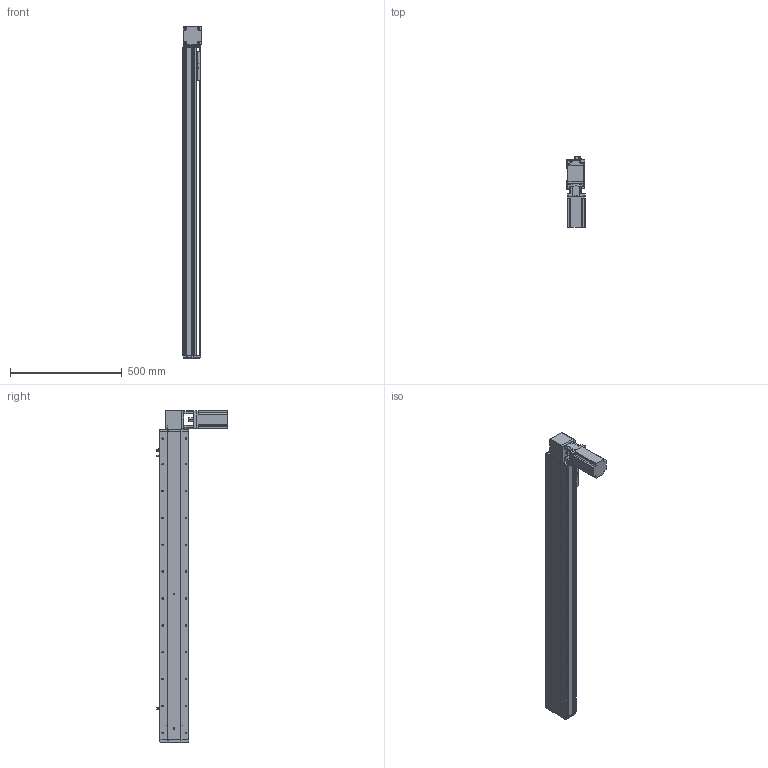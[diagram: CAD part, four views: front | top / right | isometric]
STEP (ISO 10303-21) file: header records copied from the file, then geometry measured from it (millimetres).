
FILE_DESCRIPTION (( 'STEP AP214' ), '1' );
FILE_NAME ('KSD130B-S1150-MRT-CM.STEP', '2019-11-16T03:39:04', ( '微软用户' ), ( '微软中国' ), 'SwSTEP 2.0', 'SolidWorks 2014', '' );
FILE_SCHEMA (( 'AUTOMOTIVE_DESIGN' ));
Length unit declared in the file: millimetre
Products named in the file (12): 130宽安装板同步带带电机座750W; 130宽盖板半封闭同步带-1150行程; 130宽马达安装板同步带左-改; 130宽马达安装板同步带半封闭; 130宽同步带安装座半封闭; 130宽端盖同步带半封闭; 130宽底板半封闭同步带-1150行程; KSD130B-S1150-MRT-CM; 台达ECMA－C20807AS伺服电机; 130宽马达安装板1-带电机座750W（1）; 覜茼え100遵圉猾敕; U倰嫖萇EEㄜSX672
Assembly tree (13 placements, depth 2):
  KSD130B-S1150-MRT-CM
    130宽底板半封闭同步带-1150行程
    130宽端盖同步带半封闭
    130宽同步带安装座半封闭
    130宽马达安装板同步带半封闭
    130宽马达安装板同步带左-改
    130宽盖板半封闭同步带-1150行程
    130宽安装板同步带带电机座750W
    U倰嫖萇EEㄜSX672  x3
    覜茼え100遵圉猾敕
    130宽马达安装板1-带电机座750W（1）
    台达ECMA－C20807AS伺服电机
Bounding box: 81 x 316 x 1483 mm (x, y, z)
Volume: 5367856.4 mm3; surface area: 1437177.1 mm2
Topology: 14 solids, 14 shells, 1567 faces, 4492 edges, 2861 vertices
Faces by surface type: cylinder 761, plane 613, cone 193
Entity records: 52007 total; most frequent: CARTESIAN_POINT 9763, DIRECTION 7894, ORIENTED_EDGE 7596, EDGE_CURVE 3798, AXIS2_PLACEMENT_3D 2904, VERTEX_POINT 2485, VECTOR 2086, LINE 2086
